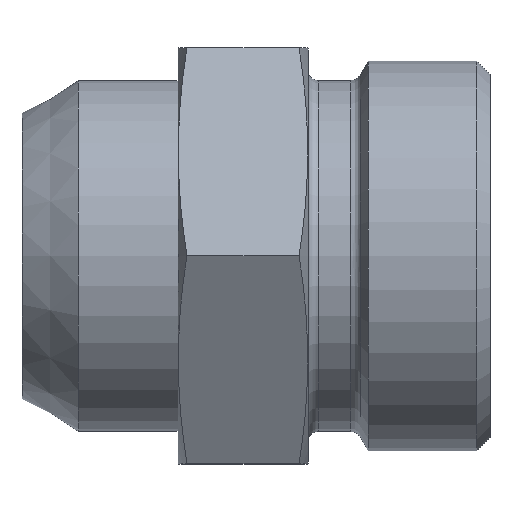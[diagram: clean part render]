
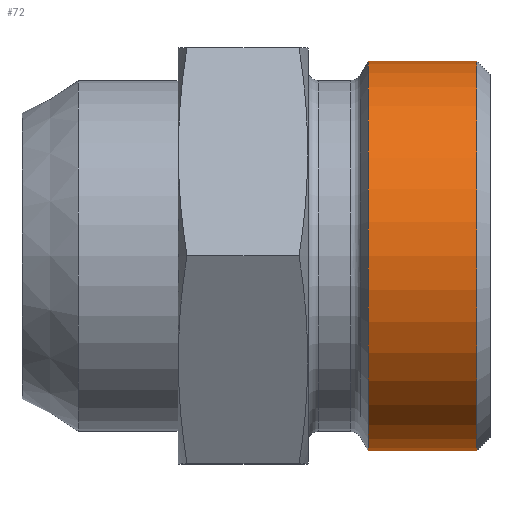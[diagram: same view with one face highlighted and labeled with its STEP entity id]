
A CAD part, top view. The second image highlights one B-rep face of the part: STEP entity #72.
In plain terms, the highlighted cylindrical face has radius 15 mm (diameter 30 mm), a full revolution.
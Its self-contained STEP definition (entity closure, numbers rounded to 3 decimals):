
#72 = ADVANCED_FACE( '', ( #157, #158 ), #159, .T. );
#157 = FACE_OUTER_BOUND( '', #254, .T. );
#158 = FACE_OUTER_BOUND( '', #255, .T. );
#159 = CYLINDRICAL_SURFACE( '', #256, 15. );
#254 = EDGE_LOOP( '', ( #381 ) );
#255 = EDGE_LOOP( '', ( #382 ) );
#256 = AXIS2_PLACEMENT_3D( '', #383, #384, #385 );
#381 = ORIENTED_EDGE( '', *, *, #504, .T. );
#382 = ORIENTED_EDGE( '', *, *, #494, .F. );
#383 = CARTESIAN_POINT( '', ( -60., 0., 0. ) );
#384 = DIRECTION( '', ( 1., 0., 0. ) );
#385 = DIRECTION( '', ( 0., 0., 1. ) );
#494 = EDGE_CURVE( '', #571, #571, #572, .T. );
#504 = EDGE_CURVE( '', #587, #587, #588, .T. );
#571 = VERTEX_POINT( '', #731 );
#572 = CIRCLE( '', #732, 15. );
#587 = VERTEX_POINT( '', #747 );
#588 = CIRCLE( '', #748, 15. );
#731 = CARTESIAN_POINT( '', ( -9.365, 0., 15. ) );
#732 = AXIS2_PLACEMENT_3D( '', #831, #832, #833 );
#747 = CARTESIAN_POINT( '', ( -1., 0., 15. ) );
#748 = AXIS2_PLACEMENT_3D( '', #849, #850, #851 );
#831 = CARTESIAN_POINT( '', ( -9.365, 0., 0. ) );
#832 = DIRECTION( '', ( -1., 0., 0. ) );
#833 = DIRECTION( '', ( 0., 0., 1. ) );
#849 = CARTESIAN_POINT( '', ( -1., 0., 0. ) );
#850 = DIRECTION( '', ( -1., 0., 0. ) );
#851 = DIRECTION( '', ( 0., 0., 1. ) );
